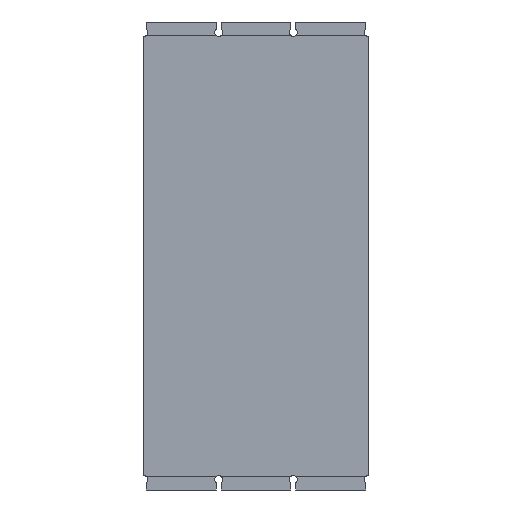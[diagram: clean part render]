
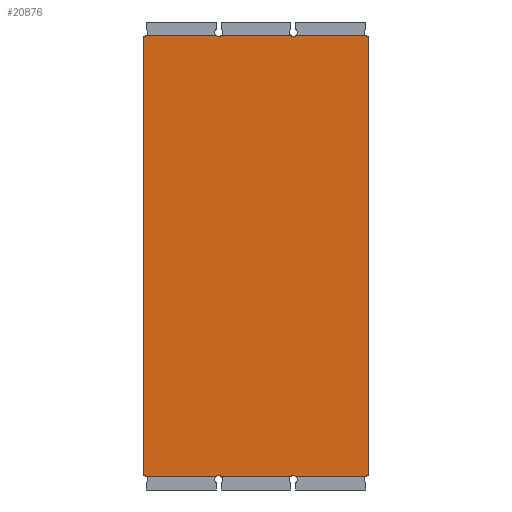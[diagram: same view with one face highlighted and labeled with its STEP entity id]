
A CAD part, front view. The second image highlights one B-rep face of the part: STEP entity #20876.
In plain terms, the highlighted planar face has unit normal (0, -1, 0).
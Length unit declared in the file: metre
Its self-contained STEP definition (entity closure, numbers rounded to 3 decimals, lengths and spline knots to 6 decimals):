
#671=CIRCLE('',#22109,0.0025);
#675=CIRCLE('',#22117,0.0025);
#678=CIRCLE('',#22127,0.0025);
#680=CIRCLE('',#22136,0.0025);
#681=CIRCLE('',#22140,0.0025);
#682=CIRCLE('',#22141,0.0025);
#683=CIRCLE('',#22142,0.0025);
#684=CIRCLE('',#22143,0.0025);
#1662=FACE_OUTER_BOUND('',#2916,.T.);
#2916=EDGE_LOOP('',(#17997,#17998,#17999,#18000,#18001,#18002,#18003,#18004,
#18005,#18006,#18007,#18008,#18009,#18010,#18011,#18012));
#5356=LINE('',#41493,#7926);
#5368=LINE('',#41521,#7938);
#5382=LINE('',#41558,#7952);
#5396=LINE('',#41594,#7966);
#5401=LINE('',#41609,#7971);
#5405=LINE('',#41618,#7975);
#5406=LINE('',#41623,#7976);
#5407=LINE('',#41628,#7977);
#7926=VECTOR('',#26660,0.274);
#7938=VECTOR('',#26682,0.04375);
#7952=VECTOR('',#26718,0.0435);
#7966=VECTOR('',#26752,0.04375);
#7971=VECTOR('',#26765,0.04375);
#7975=VECTOR('',#26771,0.0435);
#7976=VECTOR('',#26776,0.274);
#7977=VECTOR('',#26783,0.04375);
#9933=VERTEX_POINT('',#41490);
#9934=VERTEX_POINT('',#41492);
#9940=VERTEX_POINT('',#41507);
#9945=VERTEX_POINT('',#41519);
#9949=VERTEX_POINT('',#41530);
#9957=VERTEX_POINT('',#41556);
#9961=VERTEX_POINT('',#41566);
#9969=VERTEX_POINT('',#41592);
#9971=VERTEX_POINT('',#41598);
#9973=VERTEX_POINT('',#41603);
#9975=VERTEX_POINT('',#41607);
#9977=VERTEX_POINT('',#41612);
#9979=VERTEX_POINT('',#41616);
#9980=VERTEX_POINT('',#41620);
#9981=VERTEX_POINT('',#41622);
#9982=VERTEX_POINT('',#41626);
#12678=EDGE_CURVE('',#9934,#9933,#5356,.T.);
#12686=EDGE_CURVE('',#9933,#9940,#671,.T.);
#12693=EDGE_CURVE('',#9940,#9945,#5368,.T.);
#12699=EDGE_CURVE('',#9945,#9949,#675,.T.);
#12712=EDGE_CURVE('',#9949,#9957,#5382,.T.);
#12717=EDGE_CURVE('',#9957,#9961,#678,.T.);
#12730=EDGE_CURVE('',#9961,#9969,#5396,.T.);
#12733=EDGE_CURVE('',#9969,#9971,#680,.T.);
#12737=EDGE_CURVE('',#9975,#9973,#5401,.T.);
#12741=EDGE_CURVE('',#9979,#9977,#5405,.T.);
#12742=EDGE_CURVE('',#9934,#9980,#681,.T.);
#12743=EDGE_CURVE('',#9971,#9981,#5406,.T.);
#12744=EDGE_CURVE('',#9973,#9981,#682,.T.);
#12745=EDGE_CURVE('',#9977,#9975,#683,.T.);
#12746=EDGE_CURVE('',#9982,#9979,#684,.T.);
#12747=EDGE_CURVE('',#9980,#9982,#5407,.T.);
#17997=ORIENTED_EDGE('',*,*,#12742,.F.);
#17998=ORIENTED_EDGE('',*,*,#12678,.T.);
#17999=ORIENTED_EDGE('',*,*,#12686,.T.);
#18000=ORIENTED_EDGE('',*,*,#12693,.T.);
#18001=ORIENTED_EDGE('',*,*,#12699,.T.);
#18002=ORIENTED_EDGE('',*,*,#12712,.T.);
#18003=ORIENTED_EDGE('',*,*,#12717,.T.);
#18004=ORIENTED_EDGE('',*,*,#12730,.T.);
#18005=ORIENTED_EDGE('',*,*,#12733,.T.);
#18006=ORIENTED_EDGE('',*,*,#12743,.T.);
#18007=ORIENTED_EDGE('',*,*,#12744,.F.);
#18008=ORIENTED_EDGE('',*,*,#12737,.F.);
#18009=ORIENTED_EDGE('',*,*,#12745,.F.);
#18010=ORIENTED_EDGE('',*,*,#12741,.F.);
#18011=ORIENTED_EDGE('',*,*,#12746,.F.);
#18012=ORIENTED_EDGE('',*,*,#12747,.F.);
#19790=PLANE('',#22139);
#20876=ADVANCED_FACE('',(#1662),#19790,.F.);
#22109=AXIS2_PLACEMENT_3D('',#41508,#26670,#26671);
#22117=AXIS2_PLACEMENT_3D('',#41532,#26693,#26694);
#22127=AXIS2_PLACEMENT_3D('',#41568,#26727,#26728);
#22136=AXIS2_PLACEMENT_3D('',#41600,#26758,#26759);
#22139=AXIS2_PLACEMENT_3D('',#41619,#26772,#26773);
#22140=AXIS2_PLACEMENT_3D('',#41621,#26774,#26775);
#22141=AXIS2_PLACEMENT_3D('',#41624,#26777,#26778);
#22142=AXIS2_PLACEMENT_3D('',#41625,#26779,#26780);
#22143=AXIS2_PLACEMENT_3D('',#41627,#26781,#26782);
#26660=DIRECTION('',(0.,0.,-1.));
#26670=DIRECTION('center_axis',(0.,1.,0.));
#26671=DIRECTION('ref_axis',(0.,0.,1.));
#26682=DIRECTION('',(1.,0.,0.));
#26693=DIRECTION('center_axis',(0.,1.,0.));
#26694=DIRECTION('ref_axis',(-0.6,0.,0.8));
#26718=DIRECTION('',(1.,0.,0.));
#26727=DIRECTION('center_axis',(0.,1.,0.));
#26728=DIRECTION('ref_axis',(-0.6,0.,0.8));
#26752=DIRECTION('',(1.,0.,0.));
#26758=DIRECTION('center_axis',(0.,1.,0.));
#26759=DIRECTION('ref_axis',(-0.6,0.,0.8));
#26765=DIRECTION('',(1.,0.,0.));
#26771=DIRECTION('',(1.,0.,0.));
#26772=DIRECTION('center_axis',(0.,1.,0.));
#26773=DIRECTION('ref_axis',(0.,0.,1.));
#26774=DIRECTION('center_axis',(0.,-1.,0.));
#26775=DIRECTION('ref_axis',(0.,0.,-1.));
#26776=DIRECTION('',(0.,0.,1.));
#26777=DIRECTION('center_axis',(0.,-1.,0.));
#26778=DIRECTION('ref_axis',(-0.6,0.,-0.8));
#26779=DIRECTION('center_axis',(0.,-1.,0.));
#26780=DIRECTION('ref_axis',(-0.6,0.,-0.8));
#26781=DIRECTION('center_axis',(0.,-1.,0.));
#26782=DIRECTION('ref_axis',(-0.6,0.,-0.8));
#26783=DIRECTION('',(1.,0.,0.));
#41490=CARTESIAN_POINT('',(-0.07,-0.0975,-0.137));
#41492=CARTESIAN_POINT('',(-0.07,-0.0975,0.137));
#41493=CARTESIAN_POINT('',(-0.07,-0.0975,0.137));
#41507=CARTESIAN_POINT('',(-0.0685,-0.0975,-0.1375));
#41508=CARTESIAN_POINT('Origin',(-0.07,-0.0975,-0.1395));
#41519=CARTESIAN_POINT('',(-0.02475,-0.0975,-0.1375));
#41521=CARTESIAN_POINT('',(-0.0685,-0.0975,-0.1375));
#41530=CARTESIAN_POINT('',(-0.02175,-0.0975,-0.1375));
#41532=CARTESIAN_POINT('Origin',(-0.02325,-0.0975,-0.1395));
#41556=CARTESIAN_POINT('',(0.02175,-0.0975,-0.1375));
#41558=CARTESIAN_POINT('',(-0.02175,-0.0975,-0.1375));
#41566=CARTESIAN_POINT('',(0.02475,-0.0975,-0.1375));
#41568=CARTESIAN_POINT('Origin',(0.02325,-0.0975,-0.1395));
#41592=CARTESIAN_POINT('',(0.0685,-0.0975,-0.1375));
#41594=CARTESIAN_POINT('',(0.02475,-0.0975,-0.1375));
#41598=CARTESIAN_POINT('',(0.07,-0.0975,-0.137));
#41600=CARTESIAN_POINT('Origin',(0.07,-0.0975,-0.1395));
#41603=CARTESIAN_POINT('',(0.0685,-0.0975,0.1375));
#41607=CARTESIAN_POINT('',(0.02475,-0.0975,0.1375));
#41609=CARTESIAN_POINT('',(0.02475,-0.0975,0.1375));
#41612=CARTESIAN_POINT('',(0.02175,-0.0975,0.1375));
#41616=CARTESIAN_POINT('',(-0.02175,-0.0975,0.1375));
#41618=CARTESIAN_POINT('',(-0.02175,-0.0975,0.1375));
#41619=CARTESIAN_POINT('Origin',(0.,-0.0975,0.));
#41620=CARTESIAN_POINT('',(-0.0685,-0.0975,0.1375));
#41621=CARTESIAN_POINT('Origin',(-0.07,-0.0975,0.1395));
#41622=CARTESIAN_POINT('',(0.07,-0.0975,0.137));
#41623=CARTESIAN_POINT('',(0.07,-0.0975,-0.137));
#41624=CARTESIAN_POINT('Origin',(0.07,-0.0975,0.1395));
#41625=CARTESIAN_POINT('Origin',(0.02325,-0.0975,0.1395));
#41626=CARTESIAN_POINT('',(-0.02475,-0.0975,0.1375));
#41627=CARTESIAN_POINT('Origin',(-0.02325,-0.0975,0.1395));
#41628=CARTESIAN_POINT('',(-0.0685,-0.0975,0.1375));
